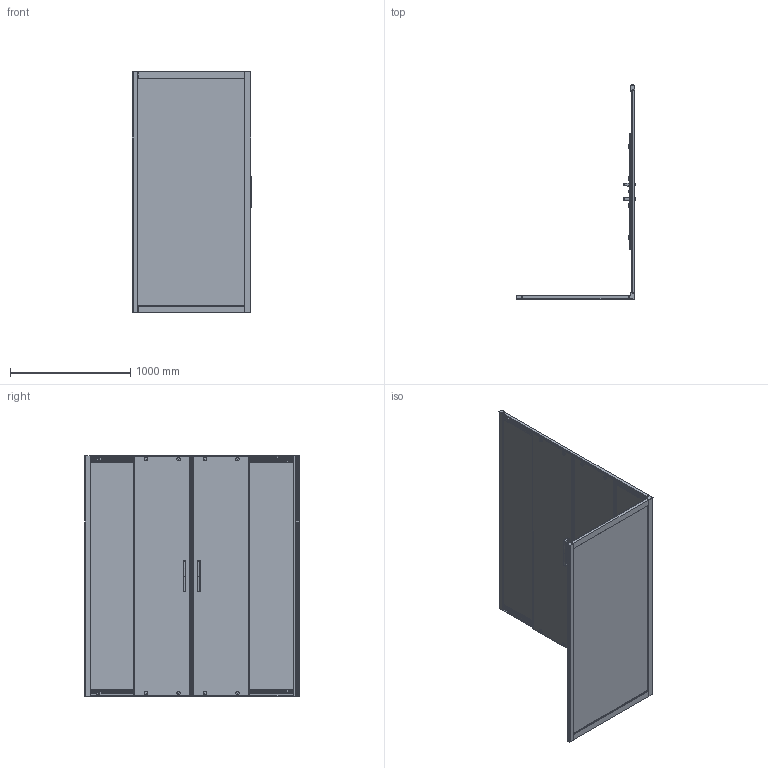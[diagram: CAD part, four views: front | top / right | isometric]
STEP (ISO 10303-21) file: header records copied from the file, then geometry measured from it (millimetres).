
FILE_DESCRIPTION(/* description */ (''),/* implementation_level */ '2;1');
FILE_NAME(/* name */ 'D:\Работа\Сергей\! Готово\Документация и модели всех серий\KUBELE динамические модели и набор документов\19 NEW\KÜBELE DE019R4\KÜBELE DE019R4-3D.stp',/* time_stamp */ '2019-06-16T21:24:02+03:00',/* author */ ('User'),/* organization */ (''),/* preprocessor_version */ 'ST-DEVELOPER v15.2',/* originating_system */ 'Autodesk Inventor 2014',/* authorisation */ '');
FILE_SCHEMA (('CONFIG_CONTROL_DESIGN'));
Products named in the file (1): KÜBELE DE019R4-3D
Bounding box: 989.52 x 1782.7 x 2002.5 mm (x, y, z)
Volume: 46793635.9 mm3; surface area: 12989313.4 mm2
Topology: 1 solids, 41 shells, 2719 faces, 7409 edges, 4754 vertices
Faces by surface type: plane 1443, cylinder 788, bspline 201, torus 127, cone 96, sphere 64
Full cylindrical faces by diameter (mm): 3 x4, 3.7 x24, 8.4 x8, 9.5 x16, 10 x4, 13.2 x8, 14 x16, 16.5 x16, 18 x16, 19 x24, 22 x8, 28.7 x8, 30 x12
Entity records: 104550 total; most frequent: CARTESIAN_POINT 34258, ORIENTED_EDGE 14220, DIRECTION 13713, EDGE_CURVE 7099, AXIS2_PLACEMENT_3D 4686, VERTEX_POINT 4666, LINE 4341, VECTOR 4341
